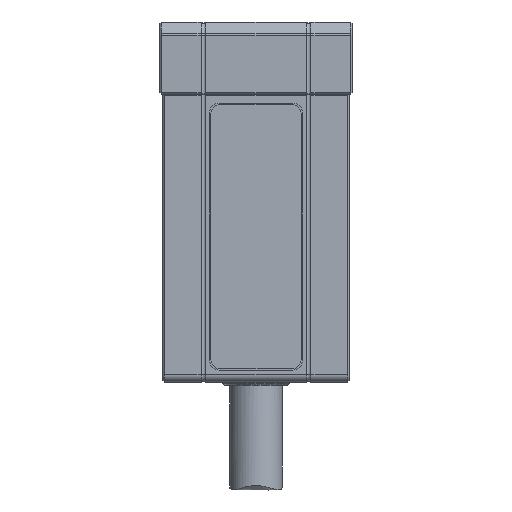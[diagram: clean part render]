
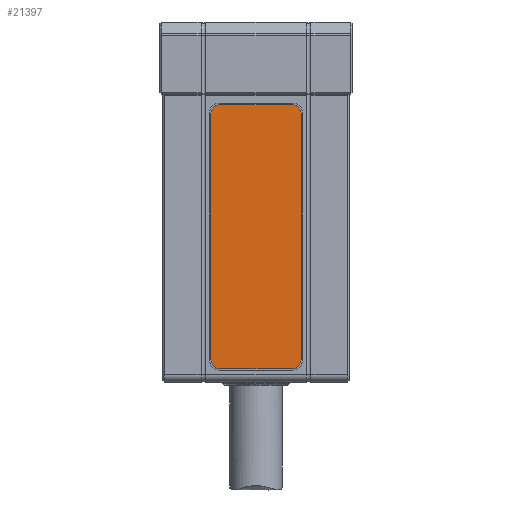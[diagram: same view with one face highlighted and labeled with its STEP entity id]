
A CAD part, left-side view. The second image highlights one B-rep face of the part: STEP entity #21397.
In plain terms, the highlighted planar face has unit normal (-1, 0, 0).
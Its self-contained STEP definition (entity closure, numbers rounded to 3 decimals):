
#1565 = VERTEX_POINT ( 'NONE', #55354 ) ;
#2298 = CARTESIAN_POINT ( 'NONE',  ( -39.8, 6., -56.25 ) ) ;
#5731 = AXIS2_PLACEMENT_3D ( 'NONE', #81437, #19998, #96480 ) ;
#6290 = ORIENTED_EDGE ( 'NONE', *, *, #6486, .T. ) ;
#6486 = EDGE_CURVE ( 'NONE', #30827, #26898, #41886, .T. ) ;
#7911 = CARTESIAN_POINT ( 'NONE',  ( -39.8, 7.5, -15.25 ) ) ;
#9897 = DIRECTION ( 'NONE',  ( 0., 0., 1. ) ) ;
#10063 = VERTEX_POINT ( 'NONE', #92126 ) ;
#10592 = EDGE_CURVE ( 'NONE', #53054, #1565, #71905, .T. ) ;
#13302 = CARTESIAN_POINT ( 'NONE',  ( -39.8, 6., -57.75 ) ) ;
#13357 = AXIS2_PLACEMENT_3D ( 'NONE', #2298, #33887, #65293 ) ;
#15265 = EDGE_CURVE ( 'NONE', #47922, #53054, #70693, .T. ) ;
#16600 = DIRECTION ( 'NONE',  ( 0., -1., 0. ) ) ;
#18299 = CARTESIAN_POINT ( 'NONE',  ( -39.8, -6., -56.25 ) ) ;
#18409 = EDGE_CURVE ( 'NONE', #10063, #56582, #71590, .T. ) ;
#19226 = AXIS2_PLACEMENT_3D ( 'NONE', #18299, #98302, #82246 ) ;
#19998 = DIRECTION ( 'NONE',  ( 1., 0., 0. ) ) ;
#21397 = ADVANCED_FACE ( 'NONE', ( #50985 ), #65477, .F. ) ;
#21568 = EDGE_LOOP ( 'NONE', ( #90804, #28418, #87145, #73745, #31796, #6290, #70246, #99729 ) ) ;
#23401 = CARTESIAN_POINT ( 'NONE',  ( -39.8, -6., -13.75 ) ) ;
#23817 = CIRCLE ( 'NONE', #81482, 1.5 ) ;
#24847 = CIRCLE ( 'NONE', #13357, 1.5 ) ;
#26898 = VERTEX_POINT ( 'NONE', #101382 ) ;
#28418 = ORIENTED_EDGE ( 'NONE', *, *, #15265, .T. ) ;
#30507 = CARTESIAN_POINT ( 'NONE',  ( -39.8, -7.5, -15.25 ) ) ;
#30827 = VERTEX_POINT ( 'NONE', #13302 ) ;
#31796 = ORIENTED_EDGE ( 'NONE', *, *, #61504, .T. ) ;
#33887 = DIRECTION ( 'NONE',  ( -1., 0., 0. ) ) ;
#35732 = AXIS2_PLACEMENT_3D ( 'NONE', #42897, #49133, #9897 ) ;
#37473 = CIRCLE ( 'NONE', #19226, 1.5 ) ;
#37758 = CARTESIAN_POINT ( 'NONE',  ( -39.8, 6., -13.75 ) ) ;
#39270 = CARTESIAN_POINT ( 'NONE',  ( -39.8, -6., -15.25 ) ) ;
#41886 = LINE ( 'NONE', #48632, #101848 ) ;
#42897 = CARTESIAN_POINT ( 'NONE',  ( -39.8, 6., -15.25 ) ) ;
#47922 = VERTEX_POINT ( 'NONE', #23401 ) ;
#48632 = CARTESIAN_POINT ( 'NONE',  ( -39.8, 6., -57.75 ) ) ;
#49133 = DIRECTION ( 'NONE',  ( -1., 0., 0. ) ) ;
#50985 = FACE_OUTER_BOUND ( 'NONE', #21568, .T. ) ;
#52870 = CARTESIAN_POINT ( 'NONE',  ( -39.8, 6., -13.75 ) ) ;
#53054 = VERTEX_POINT ( 'NONE', #52870 ) ;
#54343 = EDGE_CURVE ( 'NONE', #56582, #47922, #23817, .T. ) ;
#55354 = CARTESIAN_POINT ( 'NONE',  ( -39.8, 7.5, -15.25 ) ) ;
#56582 = VERTEX_POINT ( 'NONE', #30507 ) ;
#60034 = VECTOR ( 'NONE', #71886, 1000. ) ;
#60189 = VECTOR ( 'NONE', #94328, 1000. ) ;
#61504 = EDGE_CURVE ( 'NONE', #82044, #30827, #24847, .T. ) ;
#65293 = DIRECTION ( 'NONE',  ( 0., 0., 1. ) ) ;
#65477 = PLANE ( 'NONE',  #5731 ) ;
#70246 = ORIENTED_EDGE ( 'NONE', *, *, #92264, .T. ) ;
#70693 = LINE ( 'NONE', #37758, #101020 ) ;
#70695 = DIRECTION ( 'NONE',  ( -1., 0., 0. ) ) ;
#70986 = CARTESIAN_POINT ( 'NONE',  ( -39.8, 7.5, -56.25 ) ) ;
#71590 = LINE ( 'NONE', #101625, #60189 ) ;
#71886 = DIRECTION ( 'NONE',  ( 0., 0., -1. ) ) ;
#71905 = CIRCLE ( 'NONE', #35732, 1.5 ) ;
#73745 = ORIENTED_EDGE ( 'NONE', *, *, #97787, .T. ) ;
#81437 = CARTESIAN_POINT ( 'NONE',  ( -39.8, -6., -15.25 ) ) ;
#81482 = AXIS2_PLACEMENT_3D ( 'NONE', #39270, #70695, #102223 ) ;
#82044 = VERTEX_POINT ( 'NONE', #70986 ) ;
#82246 = DIRECTION ( 'NONE',  ( 0., 0., 1. ) ) ;
#87145 = ORIENTED_EDGE ( 'NONE', *, *, #10592, .T. ) ;
#90804 = ORIENTED_EDGE ( 'NONE', *, *, #54343, .T. ) ;
#92126 = CARTESIAN_POINT ( 'NONE',  ( -39.8, -7.5, -56.25 ) ) ;
#92264 = EDGE_CURVE ( 'NONE', #26898, #10063, #37473, .T. ) ;
#92353 = DIRECTION ( 'NONE',  ( 0., 1., 0. ) ) ;
#94328 = DIRECTION ( 'NONE',  ( 0., 0., 1. ) ) ;
#95131 = LINE ( 'NONE', #7911, #60034 ) ;
#96480 = DIRECTION ( 'NONE',  ( 0., 0., -1. ) ) ;
#97787 = EDGE_CURVE ( 'NONE', #1565, #82044, #95131, .T. ) ;
#98302 = DIRECTION ( 'NONE',  ( -1., 0., 0. ) ) ;
#99729 = ORIENTED_EDGE ( 'NONE', *, *, #18409, .T. ) ;
#101020 = VECTOR ( 'NONE', #92353, 1000. ) ;
#101382 = CARTESIAN_POINT ( 'NONE',  ( -39.8, -6., -57.75 ) ) ;
#101625 = CARTESIAN_POINT ( 'NONE',  ( -39.8, -7.5, -15.25 ) ) ;
#101848 = VECTOR ( 'NONE', #16600, 1000. ) ;
#102223 = DIRECTION ( 'NONE',  ( 0., 0., -1. ) ) ;
